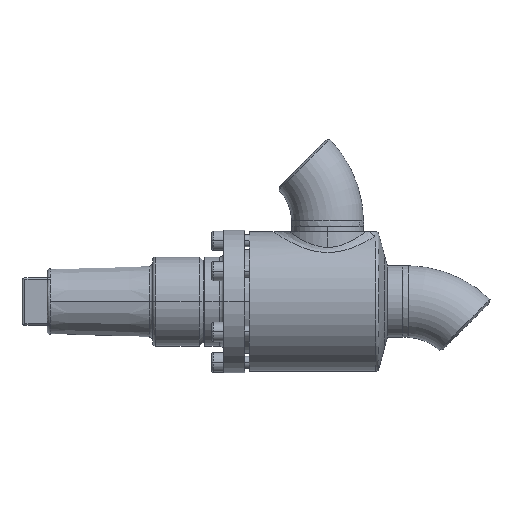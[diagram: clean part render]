
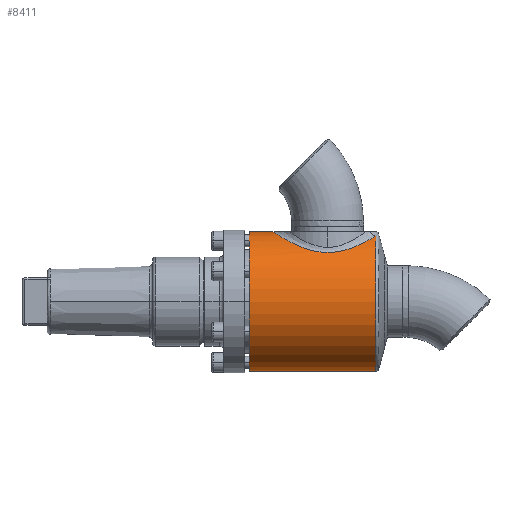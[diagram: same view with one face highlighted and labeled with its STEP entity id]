
A CAD part, left-side view. The second image highlights one B-rep face of the part: STEP entity #8411.
In plain terms, the highlighted cylindrical face has radius 47 mm (diameter 94 mm), a partial arc.
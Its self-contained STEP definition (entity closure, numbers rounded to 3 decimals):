
#250 = B_SPLINE_CURVE_WITH_KNOTS ( 'NONE', 3,
 ( #251, #252, #253, #254, #255, #256, #257, #258, #259, #260, #261, #262, #263, #264, #265, #282, #283, #284, #285, #286, #287, #288, #289, #290, #291, #292, #293, #294, #295, #296, #297, #316, #317, #318, #319, #320, #321, #322, #323, #324, #325, #326, #327, #328, #329, #330, #331, #348, #349, #350, #351, #352, #353, #354, #355, #356, #357, #358, #359, #360, #361, #362 ),
 .UNSPECIFIED., .F., .F.,
 ( 4, 2, 2, 2, 2, 2, 2, 2, 2, 2, 2, 2, 2, 2, 2, 2, 2, 2, 2, 2, 2, 2, 2, 2, 2, 2, 2, 2, 2, 2, 4 ),
 ( 0.017, 0.023, 0.026, 0.029, 0.035, 0.039, 0.04, 0.042, 0.048, 0.051, 0.052, 0.054, 0.06, 0.063, 0.066, 0.069, 0.072, 0.078, 0.081, 0.083, 0.084, 0.09, 0.093, 0.095, 0.096, 0.103, 0.106, 0.107, 0.109, 0.112, 0.115 ),
 .UNSPECIFIED. ) ;
#251 = CARTESIAN_POINT ( 'NONE',  ( -16.073, -85.446, 44.166 ) ) ;
#252 = CARTESIAN_POINT ( 'NONE',  ( -17.749, -84.43, 43.556 ) ) ;
#253 = CARTESIAN_POINT ( 'NONE',  ( -19.293, -83.29, 42.887 ) ) ;
#254 = CARTESIAN_POINT ( 'NONE',  ( -21.444, -81.41, 41.831 ) ) ;
#255 = CARTESIAN_POINT ( 'NONE',  ( -22.133, -80.755, 41.469 ) ) ;
#256 = CARTESIAN_POINT ( 'NONE',  ( -23.459, -79.389, 40.734 ) ) ;
#257 = CARTESIAN_POINT ( 'NONE',  ( -24.096, -78.676, 40.359 ) ) ;
#258 = CARTESIAN_POINT ( 'NONE',  ( -25.907, -76.48, 39.24 ) ) ;
#259 = CARTESIAN_POINT ( 'NONE',  ( -26.989, -74.936, 38.497 ) ) ;
#260 = CARTESIAN_POINT ( 'NONE',  ( -28.44, -72.491, 37.424 ) ) ;
#261 = CARTESIAN_POINT ( 'NONE',  ( -28.894, -71.655, 37.073 ) ) ;
#262 = CARTESIAN_POINT ( 'NONE',  ( -29.533, -70.366, 36.563 ) ) ;
#263 = CARTESIAN_POINT ( 'NONE',  ( -29.739, -69.93, 36.396 ) ) ;
#264 = CARTESIAN_POINT ( 'NONE',  ( -30.137, -69.047, 36.067 ) ) ;
#265 = CARTESIAN_POINT ( 'NONE',  ( -30.328, -68.599, 35.906 ) ) ;
#282 = CARTESIAN_POINT ( 'NONE',  ( -31.243, -66.344, 35.126 ) ) ;
#283 = CARTESIAN_POINT ( 'NONE',  ( -31.842, -64.482, 34.576 ) ) ;
#284 = CARTESIAN_POINT ( 'NONE',  ( -32.541, -61.591, 33.914 ) ) ;
#285 = CARTESIAN_POINT ( 'NONE',  ( -32.74, -60.61, 33.721 ) ) ;
#286 = CARTESIAN_POINT ( 'NONE',  ( -32.986, -59.111, 33.48 ) ) ;
#287 = CARTESIAN_POINT ( 'NONE',  ( -33.059, -58.608, 33.408 ) ) ;
#288 = CARTESIAN_POINT ( 'NONE',  ( -33.186, -57.603, 33.282 ) ) ;
#289 = CARTESIAN_POINT ( 'NONE',  ( -33.239, -57.1, 33.229 ) ) ;
#290 = CARTESIAN_POINT ( 'NONE',  ( -33.462, -54.583, 33.006 ) ) ;
#291 = CARTESIAN_POINT ( 'NONE',  ( -33.49, -52.562, 32.976 ) ) ;
#292 = CARTESIAN_POINT ( 'NONE',  ( -33.307, -49.52, 33.161 ) ) ;
#293 = CARTESIAN_POINT ( 'NONE',  ( -33.207, -48.498, 33.262 ) ) ;
#294 = CARTESIAN_POINT ( 'NONE',  ( -32.933, -46.49, 33.532 ) ) ;
#295 = CARTESIAN_POINT ( 'NONE',  ( -32.761, -45.501, 33.702 ) ) ;
#296 = CARTESIAN_POINT ( 'NONE',  ( -32.346, -43.55, 34.1 ) ) ;
#297 = CARTESIAN_POINT ( 'NONE',  ( -32.103, -42.587, 34.33 ) ) ;
#316 = CARTESIAN_POINT ( 'NONE',  ( -31.549, -40.688, 34.839 ) ) ;
#317 = CARTESIAN_POINT ( 'NONE',  ( -31.237, -39.749, 35.121 ) ) ;
#318 = CARTESIAN_POINT ( 'NONE',  ( -30.211, -37.009, 36.016 ) ) ;
#319 = CARTESIAN_POINT ( 'NONE',  ( -29.406, -35.272, 36.683 ) ) ;
#320 = CARTESIAN_POINT ( 'NONE',  ( -28.021, -32.781, 37.738 ) ) ;
#321 = CARTESIAN_POINT ( 'NONE',  ( -27.529, -31.97, 38.099 ) ) ;
#322 = CARTESIAN_POINT ( 'NONE',  ( -26.744, -30.781, 38.65 ) ) ;
#323 = CARTESIAN_POINT ( 'NONE',  ( -26.475, -30.389, 38.835 ) ) ;
#324 = CARTESIAN_POINT ( 'NONE',  ( -25.92, -29.615, 39.208 ) ) ;
#325 = CARTESIAN_POINT ( 'NONE',  ( -25.634, -29.233, 39.396 ) ) ;
#326 = CARTESIAN_POINT ( 'NONE',  ( -24.175, -27.357, 40.33 ) ) ;
#327 = CARTESIAN_POINT ( 'NONE',  ( -22.902, -25.964, 41.072 ) ) ;
#328 = CARTESIAN_POINT ( 'NONE',  ( -20.822, -24.029, 42.143 ) ) ;
#329 = CARTESIAN_POINT ( 'NONE',  ( -20.099, -23.411, 42.494 ) ) ;
#330 = CARTESIAN_POINT ( 'NONE',  ( -18.969, -22.523, 43.004 ) ) ;
#331 = CARTESIAN_POINT ( 'NONE',  ( -18.584, -22.235, 43.172 ) ) ;
#348 = CARTESIAN_POINT ( 'NONE',  ( -17.798, -21.671, 43.502 ) ) ;
#349 = CARTESIAN_POINT ( 'NONE',  ( -17.396, -21.396, 43.664 ) ) ;
#350 = CARTESIAN_POINT ( 'NONE',  ( -15.356, -20.064, 44.455 ) ) ;
#351 = CARTESIAN_POINT ( 'NONE',  ( -13.635, -19.147, 45.018 ) ) ;
#352 = CARTESIAN_POINT ( 'NONE',  ( -10.906, -18.006, 45.727 ) ) ;
#353 = CARTESIAN_POINT ( 'NONE',  ( -9.972, -17.666, 45.94 ) ) ;
#354 = CARTESIAN_POINT ( 'NONE',  ( -8.53, -17.219, 46.222 ) ) ;
#355 = CARTESIAN_POINT ( 'NONE',  ( -8.041, -17.081, 46.31 ) ) ;
#356 = CARTESIAN_POINT ( 'NONE',  ( -7.058, -16.829, 46.47 ) ) ;
#357 = CARTESIAN_POINT ( 'NONE',  ( -6.563, -16.715, 46.542 ) ) ;
#358 = CARTESIAN_POINT ( 'NONE',  ( -5.066, -16.41, 46.737 ) ) ;
#359 = CARTESIAN_POINT ( 'NONE',  ( -4.049, -16.255, 46.836 ) ) ;
#360 = CARTESIAN_POINT ( 'NONE',  ( -2.024, -16.051, 46.967 ) ) ;
#361 = CARTESIAN_POINT ( 'NONE',  ( -1.011, -16., 47. ) ) ;
#362 = CARTESIAN_POINT ( 'NONE',  ( 0., -16., 47. ) ) ;
#2216 = ORIENTED_EDGE ( 'NONE', *, *, #26669, .F. ) ;
#3108 = CARTESIAN_POINT ( 'NONE',  ( 0., 0., -47. ) ) ;
#3411 = LINE ( 'NONE', #3412, #3413 ) ;
#3412 = CARTESIAN_POINT ( 'NONE',  ( 0., -91., -47. ) ) ;
#3413 = VECTOR ( 'NONE', #3414, 1000. ) ;
#3414 = DIRECTION ( 'NONE',  ( 0., 1., 0. ) ) ;
#3477 = ORIENTED_EDGE ( 'NONE', *, *, #6173, .T. ) ;
#3581 = VERTEX_POINT ( 'NONE', #3108 ) ;
#3992 = EDGE_CURVE ( 'NONE', #6243, #3581, #3411, .T. ) ;
#4434 = ORIENTED_EDGE ( 'NONE', *, *, #7840, .T. ) ;
#5392 = EDGE_CURVE ( 'NONE', #6243, #6822, #14811, .T. ) ;
#6070 = ORIENTED_EDGE ( 'NONE', *, *, #5392, .T. ) ;
#6173 = EDGE_CURVE ( 'NONE', #29005, #27551, #24682, .T. ) ;
#6243 = VERTEX_POINT ( 'NONE', #24742 ) ;
#6822 = VERTEX_POINT ( 'NONE', #25101 ) ;
#7028 = ORIENTED_EDGE ( 'NONE', *, *, #3992, .F. ) ;
#23667 = CARTESIAN_POINT ( 'NONE',  ( 0., -16., 47. ) ) ;
#7840 = EDGE_CURVE ( 'NONE', #6822, #29005, #250, .T. ) ;
#7976 = EDGE_LOOP ( 'NONE', ( #7028, #6070, #4434, #3477, #2216 ) ) ;
#24682 = LINE ( 'NONE', #24683, #24684 ) ;
#24683 = CARTESIAN_POINT ( 'NONE',  ( 0., -91., 47. ) ) ;
#24684 = VECTOR ( 'NONE', #24685, 1000. ) ;
#24685 = DIRECTION ( 'NONE',  ( 0., 1., 0. ) ) ;
#24742 = CARTESIAN_POINT ( 'NONE',  ( 0., -85.446, -47. ) ) ;
#8411 = ADVANCED_FACE ( 'NONE', ( #10411 ), #10412, .T. ) ;
#25101 = CARTESIAN_POINT ( 'NONE',  ( -16.073, -85.446, 44.166 ) ) ;
#26669 = EDGE_CURVE ( 'NONE', #3581, #27551, #13807, .T. ) ;
#10411 = FACE_OUTER_BOUND ( 'NONE', #7976, .T. ) ;
#10412 = CYLINDRICAL_SURFACE ( 'NONE', #10413, 47. ) ;
#10413 = AXIS2_PLACEMENT_3D ( 'NONE', #10414, #10415, #10416 ) ;
#10414 = CARTESIAN_POINT ( 'NONE',  ( 0., -91., 0. ) ) ;
#10415 = DIRECTION ( 'NONE',  ( 0., 1., 0. ) ) ;
#10416 = DIRECTION ( 'NONE',  ( 0., 0., 1. ) ) ;
#27551 = VERTEX_POINT ( 'NONE', #14426 ) ;
#29005 = VERTEX_POINT ( 'NONE', #23667 ) ;
#13807 = CIRCLE ( 'NONE', #13808, 47. ) ;
#13808 = AXIS2_PLACEMENT_3D ( 'NONE', #13809, #13810, #13811 ) ;
#13809 = CARTESIAN_POINT ( 'NONE',  ( 0., 0., 0. ) ) ;
#13810 = DIRECTION ( 'NONE',  ( 0., 1., 0. ) ) ;
#13811 = DIRECTION ( 'NONE',  ( 0., 0., 1. ) ) ;
#14426 = CARTESIAN_POINT ( 'NONE',  ( 0., 0., 47. ) ) ;
#14811 = CIRCLE ( 'NONE', #14830, 47. ) ;
#14830 = AXIS2_PLACEMENT_3D ( 'NONE', #14831, #14832, #14833 ) ;
#14831 = CARTESIAN_POINT ( 'NONE',  ( 0., -85.446, 0. ) ) ;
#14832 = DIRECTION ( 'NONE',  ( 0., 1., 0. ) ) ;
#14833 = DIRECTION ( 'NONE',  ( 0., 0., -1. ) ) ;
